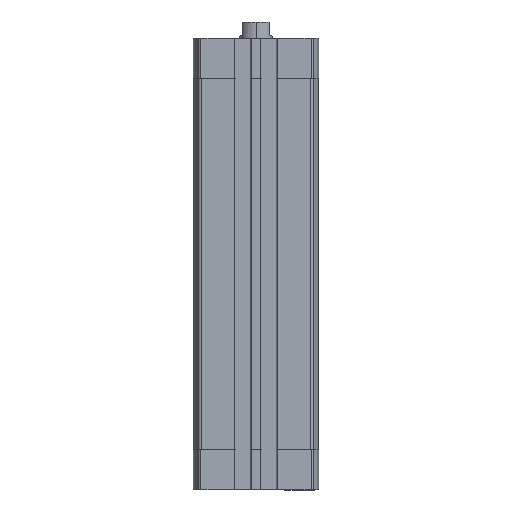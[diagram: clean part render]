
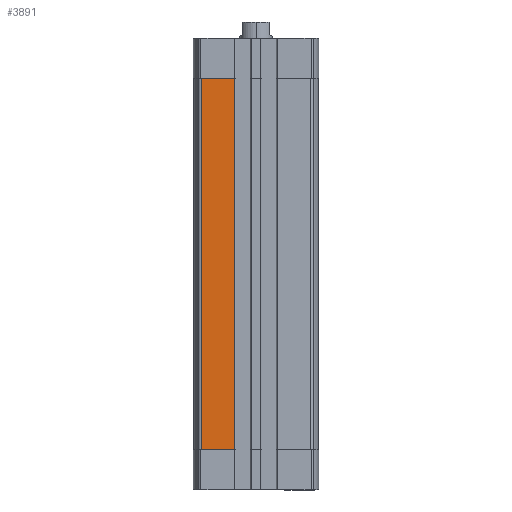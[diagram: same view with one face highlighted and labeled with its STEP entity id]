
A CAD part, left-side view. The second image highlights one B-rep face of the part: STEP entity #3891.
In plain terms, the highlighted planar face has unit normal (-1, 0, 0).
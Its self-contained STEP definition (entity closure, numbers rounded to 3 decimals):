
#152 = DIRECTION ( 'NONE',  ( 0., 1., 0. ) ) ;
#862 = VERTEX_POINT ( 'NONE', #14315 ) ;
#1090 = CARTESIAN_POINT ( 'NONE',  ( -23.25, 20.543, -15. ) ) ;
#1416 = CARTESIAN_POINT ( 'NONE',  ( -23.25, 7.95, -154. ) ) ;
#1620 = CARTESIAN_POINT ( 'NONE',  ( -23.25, 7.95, -154. ) ) ;
#1791 = ORIENTED_EDGE ( 'NONE', *, *, #7660, .T. ) ;
#1795 = PLANE ( 'NONE',  #11618 ) ;
#2518 = CARTESIAN_POINT ( 'NONE',  ( -23.25, 7.95, -15. ) ) ;
#2575 = VERTEX_POINT ( 'NONE', #1416 ) ;
#2608 = DIRECTION ( 'NONE',  ( 0., -1., 0. ) ) ;
#2966 = DIRECTION ( 'NONE',  ( 0., 0., 1. ) ) ;
#3211 = VECTOR ( 'NONE', #2608, 1000. ) ;
#3307 = EDGE_LOOP ( 'NONE', ( #8478, #6899, #4774, #1791 ) ) ;
#3645 = CARTESIAN_POINT ( 'NONE',  ( -23.25, 20.543, -154. ) ) ;
#3891 = ADVANCED_FACE ( 'NONE', ( #10221 ), #1795, .T. ) ;
#4513 = VERTEX_POINT ( 'NONE', #1090 ) ;
#4774 = ORIENTED_EDGE ( 'NONE', *, *, #11778, .T. ) ;
#4901 = EDGE_CURVE ( 'NONE', #862, #2575, #9660, .T. ) ;
#5017 = EDGE_CURVE ( 'NONE', #10820, #2575, #14188, .T. ) ;
#6104 = CARTESIAN_POINT ( 'NONE',  ( -23.25, 20.543, -154. ) ) ;
#6362 = DIRECTION ( 'NONE',  ( 0., 0., -1. ) ) ;
#6834 = LINE ( 'NONE', #3645, #9347 ) ;
#6899 = ORIENTED_EDGE ( 'NONE', *, *, #5017, .F. ) ;
#7660 = EDGE_CURVE ( 'NONE', #4513, #862, #6834, .T. ) ;
#8026 = LINE ( 'NONE', #10964, #14119 ) ;
#8478 = ORIENTED_EDGE ( 'NONE', *, *, #4901, .T. ) ;
#9347 = VECTOR ( 'NONE', #14548, 1000. ) ;
#9660 = LINE ( 'NONE', #6104, #3211 ) ;
#10203 = DIRECTION ( 'NONE',  ( -1., 0., 0. ) ) ;
#10221 = FACE_OUTER_BOUND ( 'NONE', #3307, .T. ) ;
#10820 = VERTEX_POINT ( 'NONE', #2518 ) ;
#10964 = CARTESIAN_POINT ( 'NONE',  ( -23.25, 0., -15. ) ) ;
#11618 = AXIS2_PLACEMENT_3D ( 'NONE', #12588, #10203, #2966 ) ;
#11778 = EDGE_CURVE ( 'NONE', #10820, #4513, #8026, .T. ) ;
#12588 = CARTESIAN_POINT ( 'NONE',  ( -23.25, 20.543, -154. ) ) ;
#14119 = VECTOR ( 'NONE', #152, 1000. ) ;
#14188 = LINE ( 'NONE', #1620, #14578 ) ;
#14315 = CARTESIAN_POINT ( 'NONE',  ( -23.25, 20.543, -154. ) ) ;
#14548 = DIRECTION ( 'NONE',  ( 0., 0., -1. ) ) ;
#14578 = VECTOR ( 'NONE', #6362, 1000. ) ;
